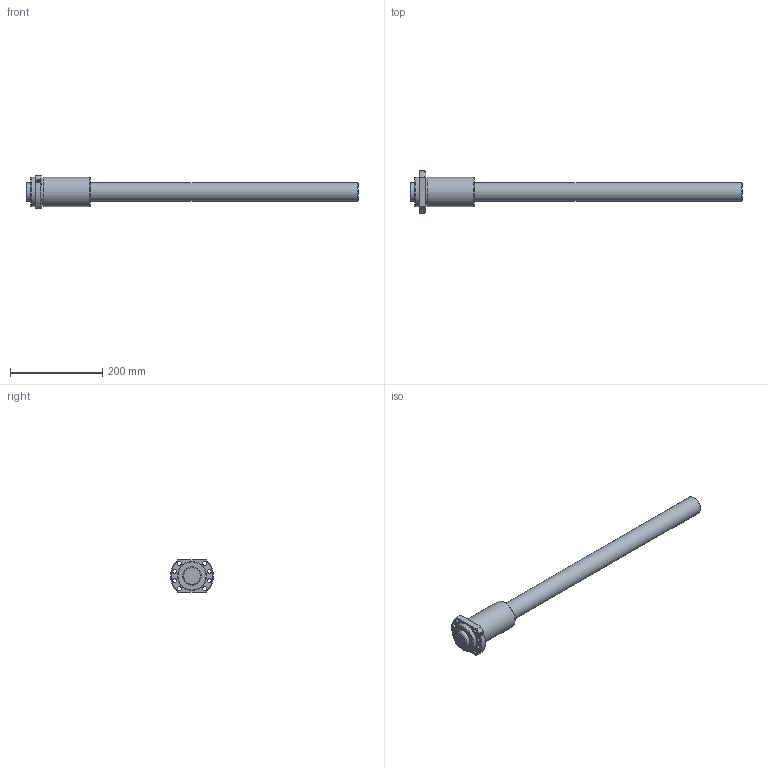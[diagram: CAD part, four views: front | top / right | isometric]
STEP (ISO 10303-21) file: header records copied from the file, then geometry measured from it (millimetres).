
FILE_DESCRIPTION(/* description */ ('STEP AP214'),/* implementation_level */ '2;1');
FILE_NAME(/* name */ 'EBB4020-3RRG0+720L C0(571G000)_rev',/* time_stamp */ '2023-08-03T13:13:15+02:00',/* author */ ('License CC BY-ND 4.0'),/* organization */ ('CADENAS'),/* preprocessor_version */ 'ST-DEVELOPER v19.3',/* originating_system */ 'PARTsolutions',/* authorisation */ ' ');
FILE_SCHEMA (('AUTOMOTIVE_DESIGN {1 0 10303 214 3 1 1}'));
Length unit declared in the file: millimetre
Products named in the file (3): EBB4020-3RRG0+720L C0(571G000)_rev; EBB 4020-3RR Nut1; EBB 4020-35710 Shaft1
Assembly tree (2 placements, depth 2):
  EBB4020-3RRG0+720L C0(571G000)_rev
    EBB 4020-3RR Nut1
    EBB 4020-35710 Shaft1
Bounding box: 720 x 93 x 70 mm (x, y, z)
Volume: 1172526.4 mm3; surface area: 147503.4 mm2
Topology: 2 solids, 2 shells, 34 faces, 77 edges, 50 vertices
Faces by surface type: cylinder 16, cone 9, plane 9
Full cylindrical faces by diameter (mm): 6.647 x1, 9 x8, 40 x2, 59.22 x1, 63 x2
Entity records: 1003 total; most frequent: CARTESIAN_POINT 187, DIRECTION 160, ORIENTED_EDGE 114, EDGE_LOOP 76, FACE_BOUND 76, AXIS2_PLACEMENT_3D 76, EDGE_CURVE 57, VERTEX_POINT 49
